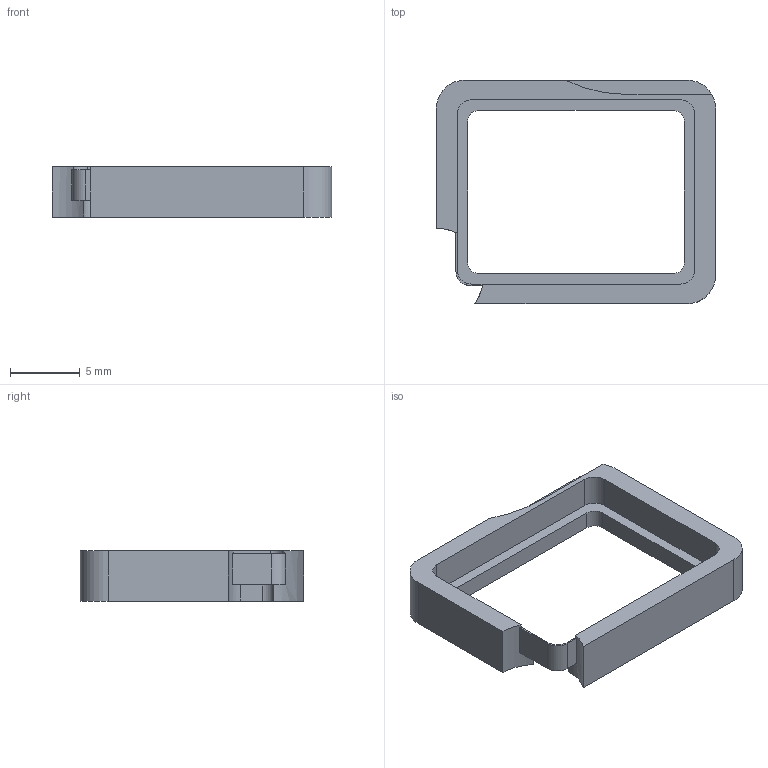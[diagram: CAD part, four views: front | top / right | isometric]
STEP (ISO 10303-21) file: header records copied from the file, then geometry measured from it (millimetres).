
FILE_DESCRIPTION(('Open CASCADE Model'),'2;1');
FILE_NAME('Open CASCADE Shape Model','2026-09-04T20:18:28',('Author'),( 'Open CASCADE'),'Open CASCADE STEP processor 7.7','Open CASCADE 7.7' ,'Unknown');
FILE_SCHEMA(('AUTOMOTIVE_DESIGN { 1 0 10303 214 1 1 1 1 }'));
Length unit declared in the file: millimetre
Products named in the file (1): Open CASCADE STEP translator 7.7 21
Bounding box: 20 x 16 x 3.6 mm (x, y, z)
Volume: 345.6 mm3; surface area: 697.3 mm2
Topology: 1 solids, 1 shells, 36 faces, 105 edges, 70 vertices
Faces by surface type: plane 21, cylinder 15
Entity records: 2601 total; most frequent: CARTESIAN_POINT 530, DIRECTION 386, LINE 221, VECTOR 221, ORIENTED_EDGE 210, PCURVE 210, DEFINITIONAL_REPRESENTATION 210, EDGE_CURVE 105
